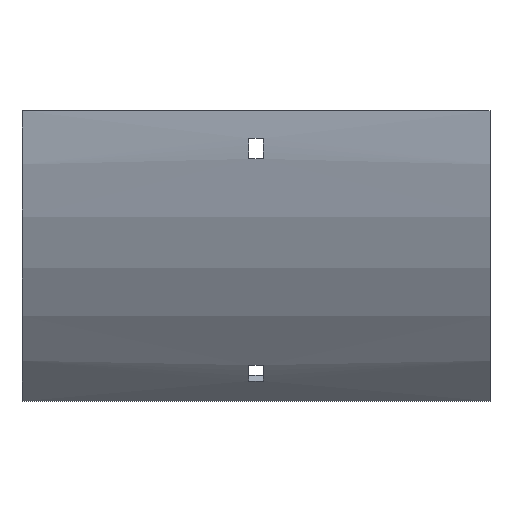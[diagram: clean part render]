
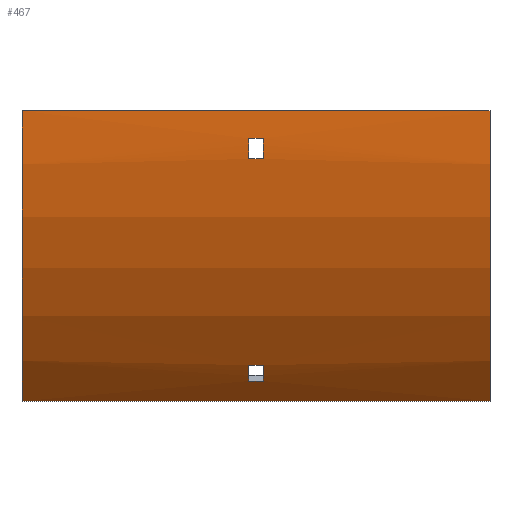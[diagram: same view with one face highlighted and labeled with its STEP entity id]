
A CAD part, front view. The second image highlights one B-rep face of the part: STEP entity #467.
In plain terms, the highlighted cylindrical face has radius 179 mm (diameter 358 mm), a partial arc.
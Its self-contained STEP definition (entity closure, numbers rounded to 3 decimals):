
#11 = CIRCLE ( 'NONE', #480, 179. ) ;
#16 = VECTOR ( 'NONE', #1082, 1000. ) ;
#58 = EDGE_CURVE ( 'NONE', #361, #1057, #1650, .T. ) ;
#68 = VERTEX_POINT ( 'NONE', #1587 ) ;
#70 = EDGE_CURVE ( 'NONE', #474, #73, #1333, .T. ) ;
#73 = VERTEX_POINT ( 'NONE', #250 ) ;
#76 = AXIS2_PLACEMENT_3D ( 'NONE', #850, #867, #1376 ) ;
#81 = EDGE_CURVE ( 'NONE', #796, #361, #1689, .T. ) ;
#82 = DIRECTION ( 'NONE',  ( 1., 0., 0. ) ) ;
#83 = CARTESIAN_POINT ( 'NONE',  ( 102., 100., 0. ) ) ;
#88 = EDGE_LOOP ( 'NONE', ( #962, #568, #1117, #853 ) ) ;
#104 = CARTESIAN_POINT ( 'NONE',  ( -3.25, 100., 0. ) ) ;
#176 = VECTOR ( 'NONE', #502, 1000. ) ;
#201 = DIRECTION ( 'NONE',  ( 0., 0., 1. ) ) ;
#235 = EDGE_CURVE ( 'NONE', #1643, #796, #1273, .T. ) ;
#250 = CARTESIAN_POINT ( 'NONE',  ( -102., -26.572, -126.572 ) ) ;
#321 = EDGE_CURVE ( 'NONE', #68, #610, #1404, .T. ) ;
#327 = EDGE_LOOP ( 'NONE', ( #1293, #1313, #1318, #391 ) ) ;
#340 = VECTOR ( 'NONE', #1042, 1000. ) ;
#361 = VERTEX_POINT ( 'NONE', #534 ) ;
#362 = CARTESIAN_POINT ( 'NONE',  ( -3.25, -34.773, -117.802 ) ) ;
#391 = ORIENTED_EDGE ( 'NONE', *, *, #1478, .T. ) ;
#398 = AXIS2_PLACEMENT_3D ( 'NONE', #104, #1524, #1158 ) ;
#421 = FACE_BOUND ( 'NONE', #327, .T. ) ;
#435 = DIRECTION ( 'NONE',  ( 0., 0., 1. ) ) ;
#466 = VECTOR ( 'NONE', #496, 1000. ) ;
#467 = ADVANCED_FACE ( 'NONE', ( #1608, #421, #1204 ), #1330, .T. ) ;
#474 = VERTEX_POINT ( 'NONE', #958 ) ;
#477 = CARTESIAN_POINT ( 'NONE',  ( 102., -79., 0. ) ) ;
#480 = AXIS2_PLACEMENT_3D ( 'NONE', #750, #82, #1374 ) ;
#485 = LINE ( 'NONE', #1397, #466 ) ;
#496 = DIRECTION ( 'NONE',  ( -1., 0., 0. ) ) ;
#497 = ORIENTED_EDGE ( 'NONE', *, *, #1452, .F. ) ;
#502 = DIRECTION ( 'NONE',  ( 1., 0., 0. ) ) ;
#511 = LINE ( 'NONE', #895, #795 ) ;
#515 = DIRECTION ( 'NONE',  ( 1., 0., 0. ) ) ;
#524 = CARTESIAN_POINT ( 'NONE',  ( 102., -40.547, -110.849 ) ) ;
#534 = CARTESIAN_POINT ( 'NONE',  ( -3.25, -40.547, -110.849 ) ) ;
#545 = AXIS2_PLACEMENT_3D ( 'NONE', #1266, #1247, #201 ) ;
#550 = CARTESIAN_POINT ( 'NONE',  ( -3.25, 100., 0. ) ) ;
#568 = ORIENTED_EDGE ( 'NONE', *, *, #70, .F. ) ;
#575 = LINE ( 'NONE', #1585, #16 ) ;
#584 = EDGE_CURVE ( 'NONE', #1358, #73, #1284, .T. ) ;
#610 = VERTEX_POINT ( 'NONE', #1146 ) ;
#615 = DIRECTION ( 'NONE',  ( 0., 0., -1. ) ) ;
#618 = CARTESIAN_POINT ( 'NONE',  ( 3.25, -77.764, -21. ) ) ;
#640 = EDGE_CURVE ( 'NONE', #1486, #474, #908, .T. ) ;
#645 = CARTESIAN_POINT ( 'NONE',  ( -3.25, -77.764, -21. ) ) ;
#659 = ORIENTED_EDGE ( 'NONE', *, *, #81, .F. ) ;
#667 = CARTESIAN_POINT ( 'NONE',  ( 3.25, -40.547, -110.849 ) ) ;
#678 = CARTESIAN_POINT ( 'NONE',  ( 102., -26.572, -126.572 ) ) ;
#695 = DIRECTION ( 'NONE',  ( -1., 0., 0. ) ) ;
#729 = VERTEX_POINT ( 'NONE', #645 ) ;
#737 = EDGE_CURVE ( 'NONE', #1334, #729, #511, .T. ) ;
#750 = CARTESIAN_POINT ( 'NONE',  ( 3.25, 100., 0. ) ) ;
#754 = CARTESIAN_POINT ( 'NONE',  ( 102., -78.597, -12. ) ) ;
#795 = VECTOR ( 'NONE', #1175, 1000. ) ;
#796 = VERTEX_POINT ( 'NONE', #667 ) ;
#807 = CIRCLE ( 'NONE', #398, 179. ) ;
#817 = CARTESIAN_POINT ( 'NONE',  ( -102., -79., 0. ) ) ;
#846 = AXIS2_PLACEMENT_3D ( 'NONE', #1213, #1219, #435 ) ;
#848 = ORIENTED_EDGE ( 'NONE', *, *, #235, .F. ) ;
#850 = CARTESIAN_POINT ( 'NONE',  ( -102., 100., 0. ) ) ;
#853 = ORIENTED_EDGE ( 'NONE', *, *, #1059, .T. ) ;
#867 = DIRECTION ( 'NONE',  ( 1., 0., 0. ) ) ;
#895 = CARTESIAN_POINT ( 'NONE',  ( 102., -77.764, -21. ) ) ;
#908 = CIRCLE ( 'NONE', #1123, 179. ) ;
#946 = ORIENTED_EDGE ( 'NONE', *, *, #58, .F. ) ;
#958 = CARTESIAN_POINT ( 'NONE',  ( 102., -26.572, -126.572 ) ) ;
#962 = ORIENTED_EDGE ( 'NONE', *, *, #584, .T. ) ;
#1042 = DIRECTION ( 'NONE',  ( -1., 0., 0. ) ) ;
#1057 = VERTEX_POINT ( 'NONE', #362 ) ;
#1059 = EDGE_CURVE ( 'NONE', #1486, #1358, #485, .T. ) ;
#1077 = DIRECTION ( 'NONE',  ( 0., 0., -1. ) ) ;
#1082 = DIRECTION ( 'NONE',  ( 1., 0., 0. ) ) ;
#1117 = ORIENTED_EDGE ( 'NONE', *, *, #640, .F. ) ;
#1123 = AXIS2_PLACEMENT_3D ( 'NONE', #83, #1531, #615 ) ;
#1146 = CARTESIAN_POINT ( 'NONE',  ( 3.25, -78.597, -12. ) ) ;
#1158 = DIRECTION ( 'NONE',  ( 0., 0., 1. ) ) ;
#1175 = DIRECTION ( 'NONE',  ( -1., 0., 0. ) ) ;
#1204 = FACE_BOUND ( 'NONE', #1535, .T. ) ;
#1213 = CARTESIAN_POINT ( 'NONE',  ( 102., 100., 0. ) ) ;
#1219 = DIRECTION ( 'NONE',  ( -1., 0., 0. ) ) ;
#1247 = DIRECTION ( 'NONE',  ( -1., 0., 0. ) ) ;
#1266 = CARTESIAN_POINT ( 'NONE',  ( 3.25, 100., 0. ) ) ;
#1271 = VECTOR ( 'NONE', #695, 1000. ) ;
#1273 = CIRCLE ( 'NONE', #545, 179. ) ;
#1275 = EDGE_CURVE ( 'NONE', #729, #68, #807, .T. ) ;
#1284 = CIRCLE ( 'NONE', #76, 179. ) ;
#1293 = ORIENTED_EDGE ( 'NONE', *, *, #737, .T. ) ;
#1313 = ORIENTED_EDGE ( 'NONE', *, *, #1275, .T. ) ;
#1318 = ORIENTED_EDGE ( 'NONE', *, *, #321, .T. ) ;
#1330 = CYLINDRICAL_SURFACE ( 'NONE', #846, 179. ) ;
#1333 = LINE ( 'NONE', #678, #340 ) ;
#1334 = VERTEX_POINT ( 'NONE', #618 ) ;
#1358 = VERTEX_POINT ( 'NONE', #817 ) ;
#1374 = DIRECTION ( 'NONE',  ( 0., 0., -1. ) ) ;
#1376 = DIRECTION ( 'NONE',  ( 0., 0., -1. ) ) ;
#1397 = CARTESIAN_POINT ( 'NONE',  ( 102., -79., 0. ) ) ;
#1404 = LINE ( 'NONE', #754, #176 ) ;
#1452 = EDGE_CURVE ( 'NONE', #1057, #1643, #575, .T. ) ;
#1478 = EDGE_CURVE ( 'NONE', #610, #1334, #11, .T. ) ;
#1486 = VERTEX_POINT ( 'NONE', #477 ) ;
#1524 = DIRECTION ( 'NONE',  ( -1., 0., 0. ) ) ;
#1531 = DIRECTION ( 'NONE',  ( 1., 0., 0. ) ) ;
#1535 = EDGE_LOOP ( 'NONE', ( #946, #659, #848, #497 ) ) ;
#1546 = CARTESIAN_POINT ( 'NONE',  ( 3.25, -34.773, -117.802 ) ) ;
#1575 = AXIS2_PLACEMENT_3D ( 'NONE', #550, #515, #1077 ) ;
#1585 = CARTESIAN_POINT ( 'NONE',  ( 102., -34.773, -117.802 ) ) ;
#1587 = CARTESIAN_POINT ( 'NONE',  ( -3.25, -78.597, -12. ) ) ;
#1608 = FACE_OUTER_BOUND ( 'NONE', #88, .T. ) ;
#1643 = VERTEX_POINT ( 'NONE', #1546 ) ;
#1650 = CIRCLE ( 'NONE', #1575, 179. ) ;
#1689 = LINE ( 'NONE', #524, #1271 ) ;
